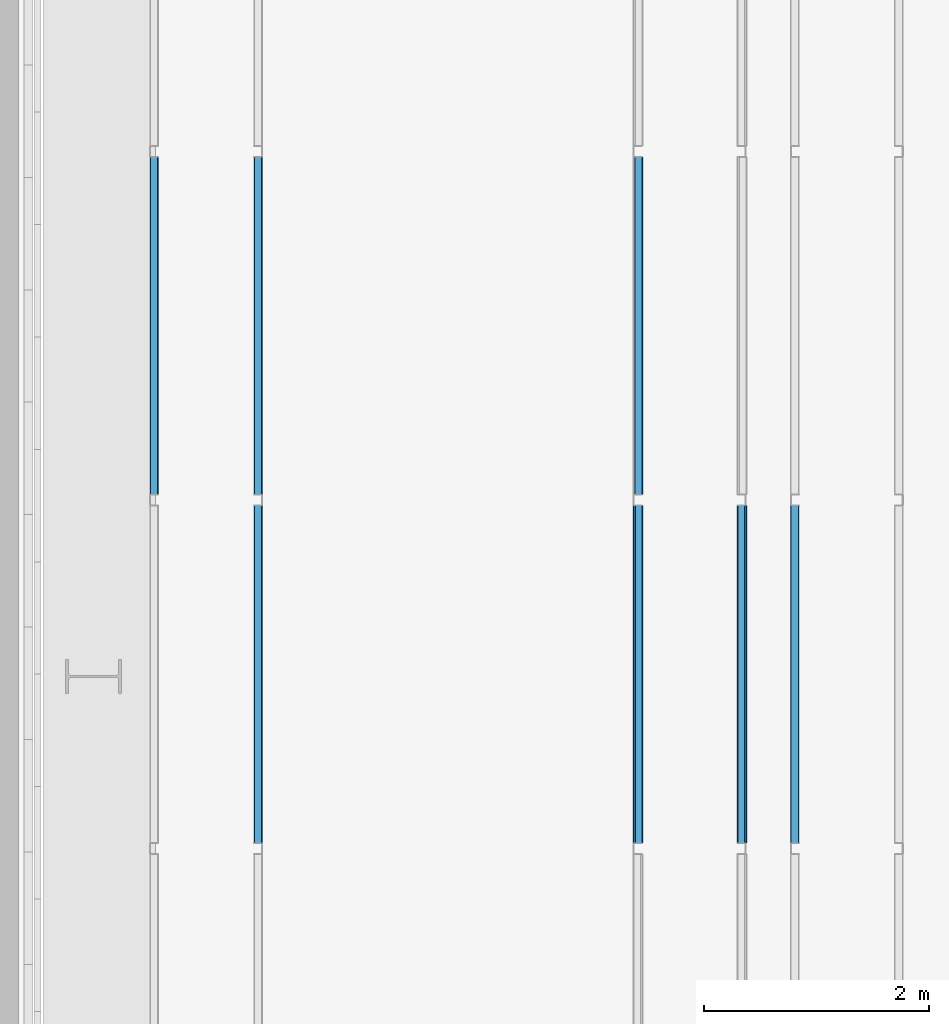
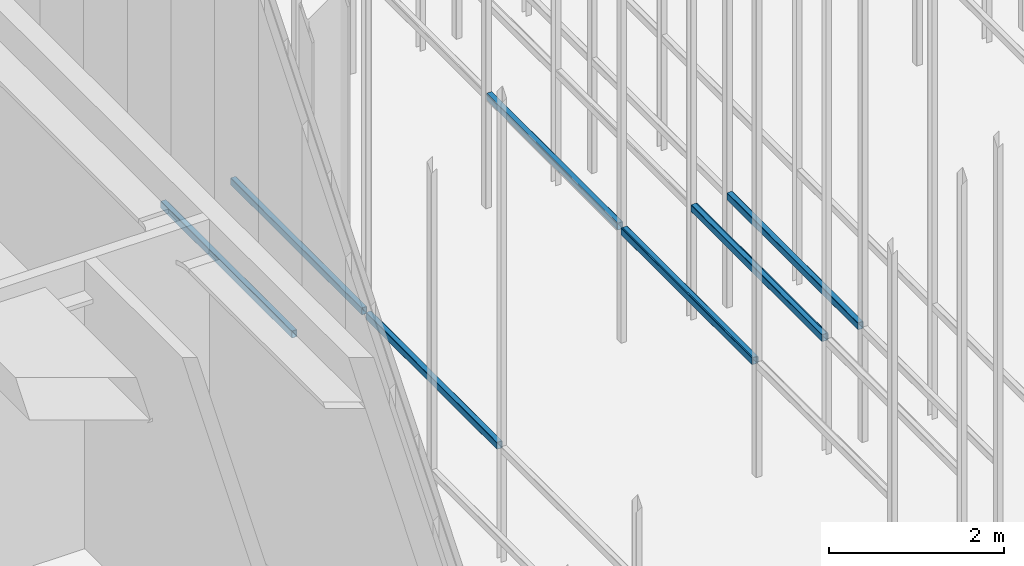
# One storey, part 141 of 302: 9 beams.
"""IFC2X3 building model written with IfcOpenShell, lengths in metres."""

from ifc_helpers import new_model, entity, si_unit, converted_unit, derived_unit, direction, frame, frame_2d, origin, place, context, subcontext, project, spatial, polyline, circle_curve, parameter, trimmed, segment, composite_curve, outline, extrude, material, type_object, element, save


model = new_model("IFC2X3")

# Units and contexts
model_context = context("Model", 3, precision=1e-05, world=origin(), true_north=direction((6.12303176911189e-17, 1.0)))
body_context = subcontext(model_context, "Body", "Model", "MODEL_VIEW")
ifc_project = project(units=[si_unit("LENGTHUNIT", "METRE"), si_unit("AREAUNIT", "SQUARE_METRE"), si_unit("VOLUMEUNIT", "CUBIC_METRE"), converted_unit("PLANEANGLEUNIT", "DEGREE", entity("IfcRatioMeasure", 0.0174532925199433), si_unit("PLANEANGLEUNIT", "RADIAN"), dimensions=[0, 0, 0, 0, 0, 0, 0]), si_unit("MASSUNIT", "GRAM", prefix="KILO"), derived_unit("MASSDENSITYUNIT", [(si_unit("MASSUNIT", "GRAM", prefix="KILO"), 1), (si_unit("LENGTHUNIT", "METRE"), -3)]), derived_unit("MOMENTOFINERTIAUNIT", [(si_unit("LENGTHUNIT", "METRE"), 4)]), si_unit("TIMEUNIT", "SECOND"), si_unit("FREQUENCYUNIT", "HERTZ"), si_unit("THERMODYNAMICTEMPERATUREUNIT", "DEGREE_CELSIUS"), derived_unit("THERMALTRANSMITTANCEUNIT", [(si_unit("MASSUNIT", "GRAM", prefix="KILO"), 1), (si_unit("THERMODYNAMICTEMPERATUREUNIT", "KELVIN"), -1), (si_unit("TIMEUNIT", "SECOND"), -3)]), derived_unit("VOLUMETRICFLOWRATEUNIT", [(si_unit("LENGTHUNIT", "METRE"), 3), (si_unit("TIMEUNIT", "SECOND"), -1)]), si_unit("ELECTRICCURRENTUNIT", "AMPERE"), si_unit("ELECTRICVOLTAGEUNIT", "VOLT"), si_unit("POWERUNIT", "WATT"), si_unit("FORCEUNIT", "NEWTON", prefix="KILO"), si_unit("ILLUMINANCEUNIT", "LUX"), si_unit("LUMINOUSFLUXUNIT", "LUMEN"), si_unit("LUMINOUSINTENSITYUNIT", "CANDELA"), derived_unit("USERDEFINED", [(si_unit("MASSUNIT", "GRAM", prefix="KILO"), -1), (si_unit("LENGTHUNIT", "METRE"), -2), (si_unit("TIMEUNIT", "SECOND"), 3), (si_unit("LUMINOUSFLUXUNIT", "LUMEN"), 1)]), derived_unit("LINEARVELOCITYUNIT", [(si_unit("LENGTHUNIT", "METRE"), 1), (si_unit("TIMEUNIT", "SECOND"), -1)]), si_unit("PRESSUREUNIT", "PASCAL"), derived_unit("USERDEFINED", [(si_unit("LENGTHUNIT", "METRE"), -2), (si_unit("MASSUNIT", "GRAM", prefix="KILO"), 1), (si_unit("TIMEUNIT", "SECOND"), -2)]), derived_unit("LINEARFORCEUNIT", [(si_unit("MASSUNIT", "GRAM", prefix="KILO"), 1), (si_unit("LENGTHUNIT", "METRE"), 1), (si_unit("TIMEUNIT", "SECOND"), -2), (si_unit("LENGTHUNIT", "METRE"), -1)]), derived_unit("PLANARFORCEUNIT", [(si_unit("MASSUNIT", "GRAM", prefix="KILO"), 1), (si_unit("LENGTHUNIT", "METRE"), 1), (si_unit("TIMEUNIT", "SECOND"), -2), (si_unit("LENGTHUNIT", "METRE"), -2)])], contexts=[model_context])

# Site, building, storey
site_placement = place(None, origin())
site = spatial("IfcSite", under=ifc_project, at=site_placement, Name="Default", CompositionType="ELEMENT")
building_placement = place(site_placement, origin())
building = spatial("IfcBuilding", under=site, at=building_placement, CompositionType="ELEMENT")
storey_placement = place(building_placement, frame((0.0, 0.0, -1.3)))
storey = spatial("IfcBuildingStorey", under=building, at=storey_placement, Name="00_EG", CompositionType="ELEMENT", Elevation=-1.3)

# Beams
ifc_material = material(Name="Metall - Baustahl S235 blau")
beam_type = type_object("IfcBeamType", Name="RHS Träger (EN 10219-2):RHS 100 x 75 x 5", PredefinedType="NOTDEFINED")
beam_1_placement = place(storey_placement, frame((-200.715111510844, 30.248088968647, 2.885), z_axis=(0.0, 0.0, 1.0), x_axis=(0.0, 1.0, 0.0)))
element("IfcBeam", 1, at=beam_1_placement, inside=storey, type_object=beam_type, material=ifc_material, Name="RHS Träger (EN 10219-2):RHS 100 x 75 x 5", ObjectType="RHS Träger (EN 10219-2):RHS 100 x 75 x 5", context=body_context, shape_type="SweptSolid", body=[
    extrude(outline(composite_curve([segment(trimmed(circle_curve(frame_2d((-0.0274999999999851, -0.0400000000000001), x_axis=(1.0, 0.0)), 0.01), [parameter(180.0)], [parameter(270.0)], True, "PARAMETER"), True, "CONTINUOUS"), segment(polyline([(-0.0274999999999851, -0.05), (0.0274999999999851, -0.05)]), True, "CONTINUOUS"), segment(trimmed(circle_curve(frame_2d((0.0274999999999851, -0.0400000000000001), x_axis=(1.0, 0.0)), 0.01), [parameter(270.0)], [parameter(5.08888749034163e-14)], True, "PARAMETER"), True, "CONTINUOUS"), segment(polyline([(0.0375000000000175, -0.0399999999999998), (0.0375000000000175, 0.0400000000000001)]), True, "CONTINUOUS"), segment(trimmed(circle_curve(frame_2d((0.0274999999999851, 0.0399999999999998), x_axis=(1.0, 0.0)), 0.01), [parameter(360.0)], [parameter(89.9999999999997)], True, "PARAMETER"), True, "CONTINUOUS"), segment(polyline([(0.0274999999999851, 0.05), (-0.0274999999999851, 0.05)]), True, "CONTINUOUS"), segment(trimmed(circle_curve(frame_2d((-0.0274999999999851, 0.0399999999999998), x_axis=(1.0, 0.0)), 0.01), [parameter(90.0000000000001)], [parameter(180.0)], True, "PARAMETER"), True, "CONTINUOUS"), segment(polyline([(-0.0374999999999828, 0.0400000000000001), (-0.0374999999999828, -0.0399999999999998)]), True, "CONTINUOUS")], self_intersect=False), holes=[composite_curve([segment(polyline([(0.0274999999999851, -0.0450000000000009), (-0.0274999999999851, -0.0450000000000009)]), True, "CONTINUOUS"), segment(trimmed(circle_curve(frame_2d((-0.0274999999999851, -0.0400000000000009), x_axis=(1.0, 0.0)), 0.005), [parameter(180.0)], [parameter(270.0)], True, "PARAMETER"), False, "CONTINUOUS"), segment(polyline([(-0.0325000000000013, -0.0400000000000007), (-0.0325000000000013, 0.0399999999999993)]), True, "CONTINUOUS"), segment(trimmed(circle_curve(frame_2d((-0.0274999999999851, 0.039999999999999), x_axis=(1.0, 0.0)), 0.005), [parameter(90.0000000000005)], [parameter(180.0)], True, "PARAMETER"), False, "CONTINUOUS"), segment(polyline([(-0.0274999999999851, 0.0449999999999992), (0.0274999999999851, 0.0449999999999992)]), True, "CONTINUOUS"), segment(trimmed(circle_curve(frame_2d((0.0274999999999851, 0.039999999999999), x_axis=(1.0, 0.0)), 0.005), [parameter(0.0)], [parameter(90.0000000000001)], True, "PARAMETER"), False, "CONTINUOUS"), segment(polyline([(0.0325000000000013, 0.0399999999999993), (0.0325000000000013, -0.0400000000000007)]), True, "CONTINUOUS"), segment(trimmed(circle_curve(frame_2d((0.0274999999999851, -0.0400000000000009), x_axis=(1.0, 0.0)), 0.005), [parameter(270.0)], [parameter(4.07110999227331e-13)], True, "PARAMETER"), False, "CONTINUOUS")], self_intersect=False)]), frame((0.00010000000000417, 0.0375000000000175, -0.0500000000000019), z_axis=(1.0, 0.0, 0.0), x_axis=(0.0, -1.0, 0.0)), (0.0, 0.0, 1.0), 2.9998),
])
beam_2_placement = place(storey_placement, frame((-202.105111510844, 30.248088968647, 2.885), z_axis=(0.0, 0.0, 1.0), x_axis=(0.0, 1.0, 0.0)))
element("IfcBeam", 2, at=beam_2_placement, inside=storey, type_object=beam_type, material=ifc_material, Name="RHS Träger (EN 10219-2):RHS 100 x 75 x 5", ObjectType="RHS Träger (EN 10219-2):RHS 100 x 75 x 5", context=body_context, shape_type="SweptSolid", body=[
    extrude(outline(composite_curve([segment(trimmed(circle_curve(frame_2d((-0.0274999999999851, -0.0400000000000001), x_axis=(1.0, 0.0)), 0.01), [parameter(180.0)], [parameter(270.0)], True, "PARAMETER"), True, "CONTINUOUS"), segment(polyline([(-0.0274999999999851, -0.05), (0.0274999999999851, -0.05)]), True, "CONTINUOUS"), segment(trimmed(circle_curve(frame_2d((0.0274999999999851, -0.0400000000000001), x_axis=(1.0, 0.0)), 0.01), [parameter(270.0)], [parameter(5.08888749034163e-14)], True, "PARAMETER"), True, "CONTINUOUS"), segment(polyline([(0.0375000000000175, -0.0399999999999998), (0.0375000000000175, 0.0400000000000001)]), True, "CONTINUOUS"), segment(trimmed(circle_curve(frame_2d((0.0274999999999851, 0.0399999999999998), x_axis=(1.0, 0.0)), 0.01), [parameter(360.0)], [parameter(89.9999999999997)], True, "PARAMETER"), True, "CONTINUOUS"), segment(polyline([(0.0274999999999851, 0.05), (-0.0274999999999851, 0.05)]), True, "CONTINUOUS"), segment(trimmed(circle_curve(frame_2d((-0.0274999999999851, 0.0399999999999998), x_axis=(1.0, 0.0)), 0.01), [parameter(90.0000000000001)], [parameter(180.0)], True, "PARAMETER"), True, "CONTINUOUS"), segment(polyline([(-0.0374999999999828, 0.0400000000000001), (-0.0374999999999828, -0.0399999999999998)]), True, "CONTINUOUS")], self_intersect=False), holes=[composite_curve([segment(polyline([(0.0274999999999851, -0.0450000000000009), (-0.0274999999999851, -0.0450000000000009)]), True, "CONTINUOUS"), segment(trimmed(circle_curve(frame_2d((-0.0274999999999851, -0.0400000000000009), x_axis=(1.0, 0.0)), 0.005), [parameter(180.0)], [parameter(270.0)], True, "PARAMETER"), False, "CONTINUOUS"), segment(polyline([(-0.0325000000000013, -0.0400000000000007), (-0.0325000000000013, 0.0399999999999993)]), True, "CONTINUOUS"), segment(trimmed(circle_curve(frame_2d((-0.0274999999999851, 0.039999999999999), x_axis=(1.0, 0.0)), 0.005), [parameter(90.0000000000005)], [parameter(180.0)], True, "PARAMETER"), False, "CONTINUOUS"), segment(polyline([(-0.0274999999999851, 0.0449999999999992), (0.0274999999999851, 0.0449999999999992)]), True, "CONTINUOUS"), segment(trimmed(circle_curve(frame_2d((0.0274999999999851, 0.039999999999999), x_axis=(1.0, 0.0)), 0.005), [parameter(0.0)], [parameter(90.0000000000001)], True, "PARAMETER"), False, "CONTINUOUS"), segment(polyline([(0.0325000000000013, 0.0399999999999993), (0.0325000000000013, -0.0400000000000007)]), True, "CONTINUOUS"), segment(trimmed(circle_curve(frame_2d((0.0274999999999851, -0.0400000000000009), x_axis=(1.0, 0.0)), 0.005), [parameter(270.0)], [parameter(4.07110999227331e-13)], True, "PARAMETER"), False, "CONTINUOUS")], self_intersect=False)]), frame((0.00010000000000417, 0.0375000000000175, -0.0500000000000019), z_axis=(1.0, 0.0, 0.0), x_axis=(0.0, -1.0, 0.0)), (0.0, 0.0, 1.0), 2.9998),
])
beam_3_placement = place(storey_placement, frame((-201.255111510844, 30.248088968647, 2.885), z_axis=(0.0, 0.0, 1.0), x_axis=(0.0, 1.0, 0.0)))
element("IfcBeam", 3, at=beam_3_placement, inside=storey, type_object=beam_type, material=ifc_material, Name="RHS Träger (EN 10219-2):RHS 100 x 75 x 5", ObjectType="RHS Träger (EN 10219-2):RHS 100 x 75 x 5", context=body_context, shape_type="SweptSolid", body=[
    extrude(outline(composite_curve([segment(polyline([(-0.0399999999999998, -0.0374999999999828), (0.0400000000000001, -0.0374999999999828)]), True, "CONTINUOUS"), segment(trimmed(circle_curve(frame_2d((0.0399999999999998, -0.0274999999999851), x_axis=(0.0, 1.0)), 0.01), [parameter(180.0)], [parameter(270.0)], True, "PARAMETER"), True, "CONTINUOUS"), segment(polyline([(0.05, -0.0274999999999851), (0.05, 0.0274999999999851)]), True, "CONTINUOUS"), segment(trimmed(circle_curve(frame_2d((0.0399999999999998, 0.0274999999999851), x_axis=(0.0, 1.0)), 0.01), [parameter(270.0)], [parameter(4.07110999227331e-13)], True, "PARAMETER"), True, "CONTINUOUS"), segment(polyline([(0.0400000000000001, 0.0375000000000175), (-0.0399999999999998, 0.0375000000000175)]), True, "CONTINUOUS"), segment(trimmed(circle_curve(frame_2d((-0.0400000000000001, 0.0274999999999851), x_axis=(0.0, 1.0)), 0.01), [parameter(360.0)], [parameter(90.0000000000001)], True, "PARAMETER"), True, "CONTINUOUS"), segment(polyline([(-0.05, 0.0274999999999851), (-0.05, -0.0274999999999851)]), True, "CONTINUOUS"), segment(trimmed(circle_curve(frame_2d((-0.0400000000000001, -0.0274999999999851), x_axis=(0.0, 1.0)), 0.01), [parameter(90.0000000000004)], [parameter(180.0)], True, "PARAMETER"), True, "CONTINUOUS")], self_intersect=False), holes=[composite_curve([segment(trimmed(circle_curve(frame_2d((-0.0400000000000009, 0.0274999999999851), x_axis=(0.0, 1.0)), 0.005), [parameter(360.0)], [parameter(89.9999999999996)], True, "PARAMETER"), False, "CONTINUOUS"), segment(polyline([(-0.0400000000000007, 0.0325000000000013), (0.0399999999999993, 0.0325000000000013)]), True, "CONTINUOUS"), segment(trimmed(circle_curve(frame_2d((0.039999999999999, 0.0274999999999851), x_axis=(0.0, 1.0)), 0.005), [parameter(270.0)], [parameter(0.0)], True, "PARAMETER"), False, "CONTINUOUS"), segment(polyline([(0.0449999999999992, 0.0274999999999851), (0.0449999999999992, -0.0274999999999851)]), True, "CONTINUOUS"), segment(trimmed(circle_curve(frame_2d((0.039999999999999, -0.0274999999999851), x_axis=(0.0, 1.0)), 0.005), [parameter(180.0)], [parameter(269.999999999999)], True, "PARAMETER"), False, "CONTINUOUS"), segment(polyline([(0.0399999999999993, -0.0325000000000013), (-0.0400000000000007, -0.0325000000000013)]), True, "CONTINUOUS"), segment(trimmed(circle_curve(frame_2d((-0.0400000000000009, -0.0274999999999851), x_axis=(0.0, 1.0)), 0.005), [parameter(90.0000000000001)], [parameter(180.0)], True, "PARAMETER"), False, "CONTINUOUS"), segment(polyline([(-0.0450000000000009, -0.0274999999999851), (-0.0450000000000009, 0.0274999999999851)]), True, "CONTINUOUS")], self_intersect=False)]), frame((0.00010000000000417, -0.0375000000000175, -0.0500000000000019), z_axis=(1.0, 0.0, 0.0), x_axis=(0.0, 0.0, -1.0)), (0.0, 0.0, 1.0), 2.9998),
])
beam_4_placement = place(storey_placement, frame((-205.565111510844, 30.248088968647, 2.885), z_axis=(0.0, 0.0, 1.0), x_axis=(0.0, 1.0, 0.0)))
element("IfcBeam", 4, at=beam_4_placement, inside=storey, type_object=beam_type, material=ifc_material, Name="RHS Träger (EN 10219-2):RHS 100 x 75 x 5", ObjectType="RHS Träger (EN 10219-2):RHS 100 x 75 x 5", context=body_context, shape_type="SweptSolid", body=[
    extrude(outline(composite_curve([segment(polyline([(-0.0399999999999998, -0.0374999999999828), (0.0400000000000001, -0.0374999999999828)]), True, "CONTINUOUS"), segment(trimmed(circle_curve(frame_2d((0.0399999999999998, -0.0274999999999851), x_axis=(0.0, 1.0)), 0.01), [parameter(180.0)], [parameter(270.0)], True, "PARAMETER"), True, "CONTINUOUS"), segment(polyline([(0.05, -0.0274999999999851), (0.05, 0.0274999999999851)]), True, "CONTINUOUS"), segment(trimmed(circle_curve(frame_2d((0.0399999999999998, 0.0274999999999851), x_axis=(0.0, 1.0)), 0.01), [parameter(270.0)], [parameter(4.07110999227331e-13)], True, "PARAMETER"), True, "CONTINUOUS"), segment(polyline([(0.0400000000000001, 0.0375000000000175), (-0.0399999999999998, 0.0375000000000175)]), True, "CONTINUOUS"), segment(trimmed(circle_curve(frame_2d((-0.0400000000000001, 0.0274999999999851), x_axis=(0.0, 1.0)), 0.01), [parameter(360.0)], [parameter(90.0000000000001)], True, "PARAMETER"), True, "CONTINUOUS"), segment(polyline([(-0.05, 0.0274999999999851), (-0.05, -0.0274999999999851)]), True, "CONTINUOUS"), segment(trimmed(circle_curve(frame_2d((-0.0400000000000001, -0.0274999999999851), x_axis=(0.0, 1.0)), 0.01), [parameter(90.0000000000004)], [parameter(180.0)], True, "PARAMETER"), True, "CONTINUOUS")], self_intersect=False), holes=[composite_curve([segment(trimmed(circle_curve(frame_2d((-0.0400000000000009, 0.0274999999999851), x_axis=(0.0, 1.0)), 0.005), [parameter(360.0)], [parameter(89.9999999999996)], True, "PARAMETER"), False, "CONTINUOUS"), segment(polyline([(-0.0400000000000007, 0.0325000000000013), (0.0399999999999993, 0.0325000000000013)]), True, "CONTINUOUS"), segment(trimmed(circle_curve(frame_2d((0.039999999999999, 0.0274999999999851), x_axis=(0.0, 1.0)), 0.005), [parameter(270.0)], [parameter(0.0)], True, "PARAMETER"), False, "CONTINUOUS"), segment(polyline([(0.0449999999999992, 0.0274999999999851), (0.0449999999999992, -0.0274999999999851)]), True, "CONTINUOUS"), segment(trimmed(circle_curve(frame_2d((0.039999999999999, -0.0274999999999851), x_axis=(0.0, 1.0)), 0.005), [parameter(180.0)], [parameter(269.999999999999)], True, "PARAMETER"), False, "CONTINUOUS"), segment(polyline([(0.0399999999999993, -0.0325000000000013), (-0.0400000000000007, -0.0325000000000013)]), True, "CONTINUOUS"), segment(trimmed(circle_curve(frame_2d((-0.0400000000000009, -0.0274999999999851), x_axis=(0.0, 1.0)), 0.005), [parameter(90.0000000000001)], [parameter(180.0)], True, "PARAMETER"), False, "CONTINUOUS"), segment(polyline([(-0.0450000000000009, -0.0274999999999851), (-0.0450000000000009, 0.0274999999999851)]), True, "CONTINUOUS")], self_intersect=False)]), frame((9.99999999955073e-05, -0.0375000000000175, -0.0500000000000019), z_axis=(1.0, 0.0, 0.0), x_axis=(0.0, 0.0, -1.0)), (0.0, 0.0, 1.0), 2.9998),
])
beam_5_placement = place(storey_placement, frame((-202.115111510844, 30.248088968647, 2.885), z_axis=(0.0, 0.0, 1.0), x_axis=(0.0, 1.0, 0.0)))
element("IfcBeam", 5, at=beam_5_placement, inside=storey, type_object=beam_type, material=ifc_material, Name="RHS Träger (EN 10219-2):RHS 100 x 75 x 5", ObjectType="RHS Träger (EN 10219-2):RHS 100 x 75 x 5", context=body_context, shape_type="SweptSolid", body=[
    extrude(outline(composite_curve([segment(trimmed(circle_curve(frame_2d((-0.0274999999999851, -0.0400000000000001), x_axis=(1.0, 0.0)), 0.01), [parameter(180.0)], [parameter(270.0)], True, "PARAMETER"), True, "CONTINUOUS"), segment(polyline([(-0.0274999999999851, -0.05), (0.0274999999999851, -0.05)]), True, "CONTINUOUS"), segment(trimmed(circle_curve(frame_2d((0.0274999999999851, -0.0400000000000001), x_axis=(1.0, 0.0)), 0.01), [parameter(270.0)], [parameter(5.08888749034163e-14)], True, "PARAMETER"), True, "CONTINUOUS"), segment(polyline([(0.0375000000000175, -0.0399999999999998), (0.0375000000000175, 0.0400000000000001)]), True, "CONTINUOUS"), segment(trimmed(circle_curve(frame_2d((0.0274999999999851, 0.0399999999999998), x_axis=(1.0, 0.0)), 0.01), [parameter(360.0)], [parameter(89.9999999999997)], True, "PARAMETER"), True, "CONTINUOUS"), segment(polyline([(0.0274999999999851, 0.05), (-0.0274999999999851, 0.05)]), True, "CONTINUOUS"), segment(trimmed(circle_curve(frame_2d((-0.0274999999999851, 0.0399999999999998), x_axis=(1.0, 0.0)), 0.01), [parameter(90.0000000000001)], [parameter(180.0)], True, "PARAMETER"), True, "CONTINUOUS"), segment(polyline([(-0.0374999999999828, 0.0400000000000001), (-0.0374999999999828, -0.0399999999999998)]), True, "CONTINUOUS")], self_intersect=False), holes=[composite_curve([segment(polyline([(0.0274999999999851, -0.0450000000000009), (-0.0274999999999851, -0.0450000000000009)]), True, "CONTINUOUS"), segment(trimmed(circle_curve(frame_2d((-0.0274999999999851, -0.0400000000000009), x_axis=(1.0, 0.0)), 0.005), [parameter(180.0)], [parameter(270.0)], True, "PARAMETER"), False, "CONTINUOUS"), segment(polyline([(-0.0325000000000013, -0.0400000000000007), (-0.0325000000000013, 0.0399999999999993)]), True, "CONTINUOUS"), segment(trimmed(circle_curve(frame_2d((-0.0274999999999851, 0.039999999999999), x_axis=(1.0, 0.0)), 0.005), [parameter(90.0000000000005)], [parameter(180.0)], True, "PARAMETER"), False, "CONTINUOUS"), segment(polyline([(-0.0274999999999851, 0.0449999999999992), (0.0274999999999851, 0.0449999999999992)]), True, "CONTINUOUS"), segment(trimmed(circle_curve(frame_2d((0.0274999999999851, 0.039999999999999), x_axis=(1.0, 0.0)), 0.005), [parameter(0.0)], [parameter(90.0000000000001)], True, "PARAMETER"), False, "CONTINUOUS"), segment(polyline([(0.0325000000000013, 0.0399999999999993), (0.0325000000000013, -0.0400000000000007)]), True, "CONTINUOUS"), segment(trimmed(circle_curve(frame_2d((0.0274999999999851, -0.0400000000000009), x_axis=(1.0, 0.0)), 0.005), [parameter(270.0)], [parameter(4.07110999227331e-13)], True, "PARAMETER"), False, "CONTINUOUS")], self_intersect=False)]), frame((0.00010000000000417, 0.0375000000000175, -0.0500000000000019), z_axis=(1.0, 0.0, 0.0), x_axis=(0.0, -1.0, 0.0)), (0.0, 0.0, 1.0), 2.9998),
])
beam_6_placement = place(storey_placement, frame((-201.265111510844, 30.248088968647, 2.885), z_axis=(0.0, 0.0, 1.0), x_axis=(0.0, 1.0, 0.0)))
element("IfcBeam", 6, at=beam_6_placement, inside=storey, type_object=beam_type, material=ifc_material, Name="RHS Träger (EN 10219-2):RHS 100 x 75 x 5", ObjectType="RHS Träger (EN 10219-2):RHS 100 x 75 x 5", context=body_context, shape_type="SweptSolid", body=[
    extrude(outline(composite_curve([segment(polyline([(-0.0399999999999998, -0.0374999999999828), (0.0400000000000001, -0.0374999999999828)]), True, "CONTINUOUS"), segment(trimmed(circle_curve(frame_2d((0.0399999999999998, -0.0274999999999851), x_axis=(0.0, 1.0)), 0.01), [parameter(180.0)], [parameter(270.0)], True, "PARAMETER"), True, "CONTINUOUS"), segment(polyline([(0.05, -0.0274999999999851), (0.05, 0.0274999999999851)]), True, "CONTINUOUS"), segment(trimmed(circle_curve(frame_2d((0.0399999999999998, 0.0274999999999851), x_axis=(0.0, 1.0)), 0.01), [parameter(270.0)], [parameter(4.07110999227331e-13)], True, "PARAMETER"), True, "CONTINUOUS"), segment(polyline([(0.0400000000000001, 0.0375000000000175), (-0.0399999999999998, 0.0375000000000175)]), True, "CONTINUOUS"), segment(trimmed(circle_curve(frame_2d((-0.0400000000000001, 0.0274999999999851), x_axis=(0.0, 1.0)), 0.01), [parameter(360.0)], [parameter(90.0000000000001)], True, "PARAMETER"), True, "CONTINUOUS"), segment(polyline([(-0.05, 0.0274999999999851), (-0.05, -0.0274999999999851)]), True, "CONTINUOUS"), segment(trimmed(circle_curve(frame_2d((-0.0400000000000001, -0.0274999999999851), x_axis=(0.0, 1.0)), 0.01), [parameter(90.0000000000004)], [parameter(180.0)], True, "PARAMETER"), True, "CONTINUOUS")], self_intersect=False), holes=[composite_curve([segment(trimmed(circle_curve(frame_2d((-0.0400000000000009, 0.0274999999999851), x_axis=(0.0, 1.0)), 0.005), [parameter(360.0)], [parameter(89.9999999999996)], True, "PARAMETER"), False, "CONTINUOUS"), segment(polyline([(-0.0400000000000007, 0.0325000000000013), (0.0399999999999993, 0.0325000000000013)]), True, "CONTINUOUS"), segment(trimmed(circle_curve(frame_2d((0.039999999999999, 0.0274999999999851), x_axis=(0.0, 1.0)), 0.005), [parameter(270.0)], [parameter(0.0)], True, "PARAMETER"), False, "CONTINUOUS"), segment(polyline([(0.0449999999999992, 0.0274999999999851), (0.0449999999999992, -0.0274999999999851)]), True, "CONTINUOUS"), segment(trimmed(circle_curve(frame_2d((0.039999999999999, -0.0274999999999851), x_axis=(0.0, 1.0)), 0.005), [parameter(180.0)], [parameter(269.999999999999)], True, "PARAMETER"), False, "CONTINUOUS"), segment(polyline([(0.0399999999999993, -0.0325000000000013), (-0.0400000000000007, -0.0325000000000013)]), True, "CONTINUOUS"), segment(trimmed(circle_curve(frame_2d((-0.0400000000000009, -0.0274999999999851), x_axis=(0.0, 1.0)), 0.005), [parameter(90.0000000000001)], [parameter(180.0)], True, "PARAMETER"), False, "CONTINUOUS"), segment(polyline([(-0.0450000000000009, -0.0274999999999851), (-0.0450000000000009, 0.0274999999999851)]), True, "CONTINUOUS")], self_intersect=False)]), frame((0.00010000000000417, -0.0375000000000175, -0.0500000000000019), z_axis=(1.0, 0.0, 0.0), x_axis=(0.0, 0.0, -1.0)), (0.0, 0.0, 1.0), 2.9998),
])
beam_7_placement = place(storey_placement, frame((-202.105111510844, 33.348088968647, 2.885), z_axis=(0.0, 0.0, 1.0), x_axis=(0.0, 1.0, 0.0)))
element("IfcBeam", 7, at=beam_7_placement, inside=storey, type_object=beam_type, material=ifc_material, Name="RHS Träger (EN 10219-2):RHS 100 x 75 x 5", ObjectType="RHS Träger (EN 10219-2):RHS 100 x 75 x 5", context=body_context, shape_type="SweptSolid", body=[
    extrude(outline(composite_curve([segment(trimmed(circle_curve(frame_2d((-0.0274999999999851, -0.0400000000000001), x_axis=(1.0, 0.0)), 0.01), [parameter(180.0)], [parameter(270.0)], True, "PARAMETER"), True, "CONTINUOUS"), segment(polyline([(-0.0274999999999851, -0.05), (0.0274999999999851, -0.05)]), True, "CONTINUOUS"), segment(trimmed(circle_curve(frame_2d((0.0274999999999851, -0.0400000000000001), x_axis=(1.0, 0.0)), 0.01), [parameter(270.0)], [parameter(5.08888749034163e-14)], True, "PARAMETER"), True, "CONTINUOUS"), segment(polyline([(0.0375000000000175, -0.0399999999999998), (0.0375000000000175, 0.0400000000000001)]), True, "CONTINUOUS"), segment(trimmed(circle_curve(frame_2d((0.0274999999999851, 0.0399999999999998), x_axis=(1.0, 0.0)), 0.01), [parameter(360.0)], [parameter(89.9999999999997)], True, "PARAMETER"), True, "CONTINUOUS"), segment(polyline([(0.0274999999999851, 0.05), (-0.0274999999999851, 0.05)]), True, "CONTINUOUS"), segment(trimmed(circle_curve(frame_2d((-0.0274999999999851, 0.0399999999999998), x_axis=(1.0, 0.0)), 0.01), [parameter(90.0000000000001)], [parameter(180.0)], True, "PARAMETER"), True, "CONTINUOUS"), segment(polyline([(-0.0374999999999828, 0.0400000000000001), (-0.0374999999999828, -0.0399999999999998)]), True, "CONTINUOUS")], self_intersect=False), holes=[composite_curve([segment(polyline([(0.0274999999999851, -0.0450000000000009), (-0.0274999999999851, -0.0450000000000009)]), True, "CONTINUOUS"), segment(trimmed(circle_curve(frame_2d((-0.0274999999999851, -0.0400000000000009), x_axis=(1.0, 0.0)), 0.005), [parameter(180.0)], [parameter(270.0)], True, "PARAMETER"), False, "CONTINUOUS"), segment(polyline([(-0.0325000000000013, -0.0400000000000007), (-0.0325000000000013, 0.0399999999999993)]), True, "CONTINUOUS"), segment(trimmed(circle_curve(frame_2d((-0.0274999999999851, 0.039999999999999), x_axis=(1.0, 0.0)), 0.005), [parameter(90.0000000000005)], [parameter(180.0)], True, "PARAMETER"), False, "CONTINUOUS"), segment(polyline([(-0.0274999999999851, 0.0449999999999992), (0.0274999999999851, 0.0449999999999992)]), True, "CONTINUOUS"), segment(trimmed(circle_curve(frame_2d((0.0274999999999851, 0.039999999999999), x_axis=(1.0, 0.0)), 0.005), [parameter(0.0)], [parameter(90.0000000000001)], True, "PARAMETER"), False, "CONTINUOUS"), segment(polyline([(0.0325000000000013, 0.0399999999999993), (0.0325000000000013, -0.0400000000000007)]), True, "CONTINUOUS"), segment(trimmed(circle_curve(frame_2d((0.0274999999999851, -0.0400000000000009), x_axis=(1.0, 0.0)), 0.005), [parameter(270.0)], [parameter(4.07110999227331e-13)], True, "PARAMETER"), False, "CONTINUOUS")], self_intersect=False)]), frame((9.99999999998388e-05, 0.0375000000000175, -0.0500000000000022), z_axis=(1.0, 0.0, 0.0), x_axis=(0.0, -1.0, 0.0)), (0.0, 0.0, 1.0), 2.9998),
])
beam_8_placement = place(storey_placement, frame((-206.415111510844, 33.348088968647, 2.885), z_axis=(0.0, 0.0, 1.0), x_axis=(0.0, 1.0, 0.0)))
element("IfcBeam", 8, at=beam_8_placement, inside=storey, type_object=beam_type, material=ifc_material, Name="RHS Träger (EN 10219-2):RHS 100 x 75 x 5", ObjectType="RHS Träger (EN 10219-2):RHS 100 x 75 x 5", context=body_context, shape_type="SweptSolid", body=[
    extrude(outline(composite_curve([segment(trimmed(circle_curve(frame_2d((-0.0274999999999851, -0.0400000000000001), x_axis=(1.0, 0.0)), 0.01), [parameter(180.0)], [parameter(270.0)], True, "PARAMETER"), True, "CONTINUOUS"), segment(polyline([(-0.0274999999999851, -0.05), (0.0274999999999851, -0.05)]), True, "CONTINUOUS"), segment(trimmed(circle_curve(frame_2d((0.0274999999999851, -0.0400000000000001), x_axis=(1.0, 0.0)), 0.01), [parameter(270.0)], [parameter(5.08888749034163e-14)], True, "PARAMETER"), True, "CONTINUOUS"), segment(polyline([(0.0375000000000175, -0.0399999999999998), (0.0375000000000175, 0.0400000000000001)]), True, "CONTINUOUS"), segment(trimmed(circle_curve(frame_2d((0.0274999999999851, 0.0399999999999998), x_axis=(1.0, 0.0)), 0.01), [parameter(360.0)], [parameter(89.9999999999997)], True, "PARAMETER"), True, "CONTINUOUS"), segment(polyline([(0.0274999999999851, 0.05), (-0.0274999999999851, 0.05)]), True, "CONTINUOUS"), segment(trimmed(circle_curve(frame_2d((-0.0274999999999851, 0.0399999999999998), x_axis=(1.0, 0.0)), 0.01), [parameter(90.0000000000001)], [parameter(180.0)], True, "PARAMETER"), True, "CONTINUOUS"), segment(polyline([(-0.0374999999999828, 0.0400000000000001), (-0.0374999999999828, -0.0399999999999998)]), True, "CONTINUOUS")], self_intersect=False), holes=[composite_curve([segment(polyline([(0.0274999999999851, -0.0450000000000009), (-0.0274999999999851, -0.0450000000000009)]), True, "CONTINUOUS"), segment(trimmed(circle_curve(frame_2d((-0.0274999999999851, -0.0400000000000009), x_axis=(1.0, 0.0)), 0.005), [parameter(180.0)], [parameter(270.0)], True, "PARAMETER"), False, "CONTINUOUS"), segment(polyline([(-0.0325000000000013, -0.0400000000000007), (-0.0325000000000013, 0.0399999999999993)]), True, "CONTINUOUS"), segment(trimmed(circle_curve(frame_2d((-0.0274999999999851, 0.039999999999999), x_axis=(1.0, 0.0)), 0.005), [parameter(90.0000000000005)], [parameter(180.0)], True, "PARAMETER"), False, "CONTINUOUS"), segment(polyline([(-0.0274999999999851, 0.0449999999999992), (0.0274999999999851, 0.0449999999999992)]), True, "CONTINUOUS"), segment(trimmed(circle_curve(frame_2d((0.0274999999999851, 0.039999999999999), x_axis=(1.0, 0.0)), 0.005), [parameter(0.0)], [parameter(90.0000000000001)], True, "PARAMETER"), False, "CONTINUOUS"), segment(polyline([(0.0325000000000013, 0.0399999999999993), (0.0325000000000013, -0.0400000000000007)]), True, "CONTINUOUS"), segment(trimmed(circle_curve(frame_2d((0.0274999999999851, -0.0400000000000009), x_axis=(1.0, 0.0)), 0.005), [parameter(270.0)], [parameter(4.07110999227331e-13)], True, "PARAMETER"), False, "CONTINUOUS")], self_intersect=False)]), frame((9.99999999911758e-05, 0.0375000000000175, -0.0500000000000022), z_axis=(1.0, 0.0, 0.0), x_axis=(0.0, -1.0, 0.0)), (0.0, 0.0, 1.0), 2.9998),
])
beam_9_placement = place(storey_placement, frame((-205.565111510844, 33.348088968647, 2.885), z_axis=(0.0, 0.0, 1.0), x_axis=(0.0, 1.0, 0.0)))
element("IfcBeam", 9, at=beam_9_placement, inside=storey, type_object=beam_type, material=ifc_material, Name="RHS Träger (EN 10219-2):RHS 100 x 75 x 5", ObjectType="RHS Träger (EN 10219-2):RHS 100 x 75 x 5", context=body_context, shape_type="SweptSolid", body=[
    extrude(outline(composite_curve([segment(polyline([(-0.0399999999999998, -0.0374999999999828), (0.0400000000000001, -0.0374999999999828)]), True, "CONTINUOUS"), segment(trimmed(circle_curve(frame_2d((0.0399999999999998, -0.0274999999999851), x_axis=(0.0, 1.0)), 0.01), [parameter(180.0)], [parameter(270.0)], True, "PARAMETER"), True, "CONTINUOUS"), segment(polyline([(0.05, -0.0274999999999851), (0.05, 0.0274999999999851)]), True, "CONTINUOUS"), segment(trimmed(circle_curve(frame_2d((0.0399999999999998, 0.0274999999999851), x_axis=(0.0, 1.0)), 0.01), [parameter(270.0)], [parameter(4.07110999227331e-13)], True, "PARAMETER"), True, "CONTINUOUS"), segment(polyline([(0.0400000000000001, 0.0375000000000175), (-0.0399999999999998, 0.0375000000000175)]), True, "CONTINUOUS"), segment(trimmed(circle_curve(frame_2d((-0.0400000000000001, 0.0274999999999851), x_axis=(0.0, 1.0)), 0.01), [parameter(360.0)], [parameter(90.0000000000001)], True, "PARAMETER"), True, "CONTINUOUS"), segment(polyline([(-0.05, 0.0274999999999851), (-0.05, -0.0274999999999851)]), True, "CONTINUOUS"), segment(trimmed(circle_curve(frame_2d((-0.0400000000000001, -0.0274999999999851), x_axis=(0.0, 1.0)), 0.01), [parameter(90.0000000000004)], [parameter(180.0)], True, "PARAMETER"), True, "CONTINUOUS")], self_intersect=False), holes=[composite_curve([segment(trimmed(circle_curve(frame_2d((-0.0400000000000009, 0.0274999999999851), x_axis=(0.0, 1.0)), 0.005), [parameter(360.0)], [parameter(89.9999999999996)], True, "PARAMETER"), False, "CONTINUOUS"), segment(polyline([(-0.0400000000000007, 0.0325000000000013), (0.0399999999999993, 0.0325000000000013)]), True, "CONTINUOUS"), segment(trimmed(circle_curve(frame_2d((0.039999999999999, 0.0274999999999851), x_axis=(0.0, 1.0)), 0.005), [parameter(270.0)], [parameter(0.0)], True, "PARAMETER"), False, "CONTINUOUS"), segment(polyline([(0.0449999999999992, 0.0274999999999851), (0.0449999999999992, -0.0274999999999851)]), True, "CONTINUOUS"), segment(trimmed(circle_curve(frame_2d((0.039999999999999, -0.0274999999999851), x_axis=(0.0, 1.0)), 0.005), [parameter(180.0)], [parameter(269.999999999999)], True, "PARAMETER"), False, "CONTINUOUS"), segment(polyline([(0.0399999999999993, -0.0325000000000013), (-0.0400000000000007, -0.0325000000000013)]), True, "CONTINUOUS"), segment(trimmed(circle_curve(frame_2d((-0.0400000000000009, -0.0274999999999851), x_axis=(0.0, 1.0)), 0.005), [parameter(90.0000000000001)], [parameter(180.0)], True, "PARAMETER"), False, "CONTINUOUS"), segment(polyline([(-0.0450000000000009, -0.0274999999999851), (-0.0450000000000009, 0.0274999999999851)]), True, "CONTINUOUS")], self_intersect=False)]), frame((9.99999999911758e-05, -0.0375000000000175, -0.0500000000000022), z_axis=(1.0, 0.0, 0.0), x_axis=(0.0, 0.0, -1.0)), (0.0, 0.0, 1.0), 2.9998),
])

save(model, "model.ifc")
